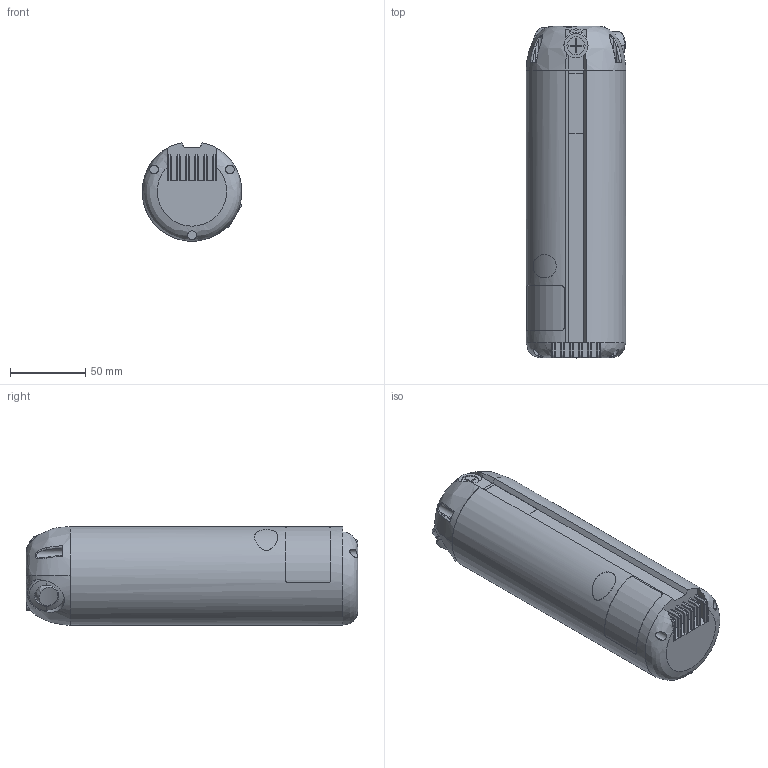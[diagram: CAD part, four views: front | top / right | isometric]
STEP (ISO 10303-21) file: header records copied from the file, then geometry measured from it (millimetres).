
FILE_DESCRIPTION (( 'STEP AP214' ), '1' );
FILE_NAME ('PowerPack 6,9Ah 24VDC.STEP', '2024-10-21T10:37:21', ( '' ), ( '' ), 'SwSTEP 2.0', 'SolidWorks 2021', '' );
FILE_SCHEMA (( 'AUTOMOTIVE_DESIGN' ));
Length unit declared in the file: millimetre
Products named in the file (1): PowerPack 6,9Ah 24VDC
Bounding box: 66 x 220 x 65.25 mm (x, y, z)
Volume: 708285.4 mm3; surface area: 63300.2 mm2
Topology: 5 solids, 5 shells, 240 faces, 602 edges, 385 vertices
Faces by surface type: plane 137, cylinder 66, bspline 23, cone 14
Entity records: 11869 total; most frequent: CARTESIAN_POINT 4152, ORIENTED_EDGE 1196, DIRECTION 1043, EDGE_CURVE 598, VERTEX_POINT 385, VECTOR 353, LINE 353, AXIS2_PLACEMENT_3D 345
